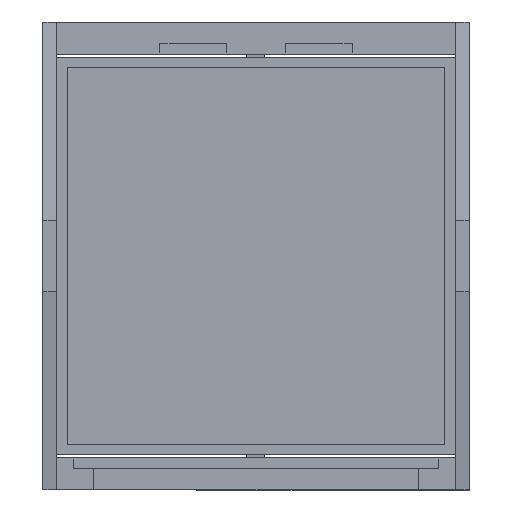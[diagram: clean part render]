
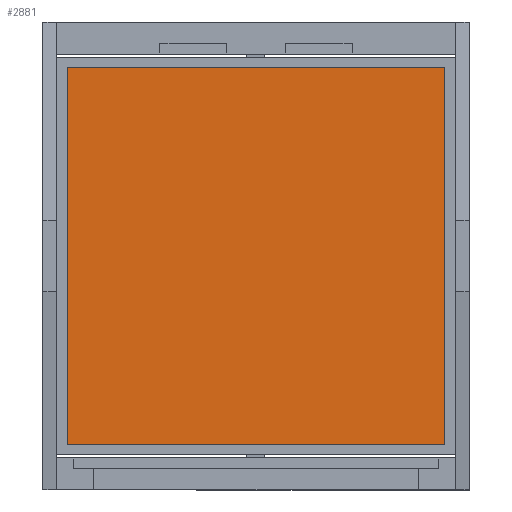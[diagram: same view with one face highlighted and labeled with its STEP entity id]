
A CAD part, front view. The second image highlights one B-rep face of the part: STEP entity #2881.
In plain terms, the highlighted planar face has unit normal (0, -1, 0).
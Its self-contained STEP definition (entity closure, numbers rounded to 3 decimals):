
#135 = DIRECTION ( 'NONE',  ( 0., 0., -1. ) ) ;
#185 = CARTESIAN_POINT ( 'NONE',  ( 10.763, -5.415, 28.467 ) ) ;
#350 = CARTESIAN_POINT ( 'NONE',  ( -29.237, -5.415, 28.467 ) ) ;
#837 = CARTESIAN_POINT ( 'NONE',  ( -29.237, -5.415, 28.467 ) ) ;
#887 = VECTOR ( 'NONE', #7864, 1000. ) ;
#1001 = VECTOR ( 'NONE', #8319, 1000. ) ;
#1165 = DIRECTION ( 'NONE',  ( 1., 0., 0. ) ) ;
#1236 = VECTOR ( 'NONE', #1165, 1000. ) ;
#1390 = FACE_OUTER_BOUND ( 'NONE', #8722, .T. ) ;
#1456 = VERTEX_POINT ( 'NONE', #3150 ) ;
#1605 = ORIENTED_EDGE ( 'NONE', *, *, #4065, .F. ) ;
#1611 = PLANE ( 'NONE',  #8237 ) ;
#1759 = CARTESIAN_POINT ( 'NONE',  ( 10.763, -5.415, -11.533 ) ) ;
#1884 = CARTESIAN_POINT ( 'NONE',  ( -29.237, -5.415, 28.467 ) ) ;
#2881 = ADVANCED_FACE ( 'NONE', ( #1390 ), #1611, .F. ) ;
#3150 = CARTESIAN_POINT ( 'NONE',  ( -29.237, -5.415, -11.533 ) ) ;
#3179 = CARTESIAN_POINT ( 'NONE',  ( -29.237, -5.415, -11.533 ) ) ;
#3222 = LINE ( 'NONE', #1884, #1236 ) ;
#3253 = CARTESIAN_POINT ( 'NONE',  ( 10.763, -5.415, -11.533 ) ) ;
#3530 = VERTEX_POINT ( 'NONE', #185 ) ;
#3578 = DIRECTION ( 'NONE',  ( 0., 1., 0. ) ) ;
#3589 = CARTESIAN_POINT ( 'NONE',  ( -29.237, -5.415, -11.533 ) ) ;
#4065 = EDGE_CURVE ( 'NONE', #4296, #1456, #4673, .T. ) ;
#4296 = VERTEX_POINT ( 'NONE', #3253 ) ;
#4673 = LINE ( 'NONE', #3179, #1001 ) ;
#4844 = ORIENTED_EDGE ( 'NONE', *, *, #5322, .F. ) ;
#4867 = VECTOR ( 'NONE', #135, 1000. ) ;
#4979 = DIRECTION ( 'NONE',  ( 0., 0., 1. ) ) ;
#5322 = EDGE_CURVE ( 'NONE', #3530, #4296, #9106, .T. ) ;
#5517 = EDGE_CURVE ( 'NONE', #1456, #6437, #9311, .T. ) ;
#5875 = ORIENTED_EDGE ( 'NONE', *, *, #8590, .F. ) ;
#6437 = VERTEX_POINT ( 'NONE', #350 ) ;
#7864 = DIRECTION ( 'NONE',  ( 0., 0., 1. ) ) ;
#7984 = ORIENTED_EDGE ( 'NONE', *, *, #5517, .F. ) ;
#8237 = AXIS2_PLACEMENT_3D ( 'NONE', #837, #3578, #4979 ) ;
#8319 = DIRECTION ( 'NONE',  ( -1., 0., 0. ) ) ;
#8590 = EDGE_CURVE ( 'NONE', #6437, #3530, #3222, .T. ) ;
#8722 = EDGE_LOOP ( 'NONE', ( #7984, #1605, #4844, #5875 ) ) ;
#9106 = LINE ( 'NONE', #1759, #4867 ) ;
#9311 = LINE ( 'NONE', #3589, #887 ) ;
